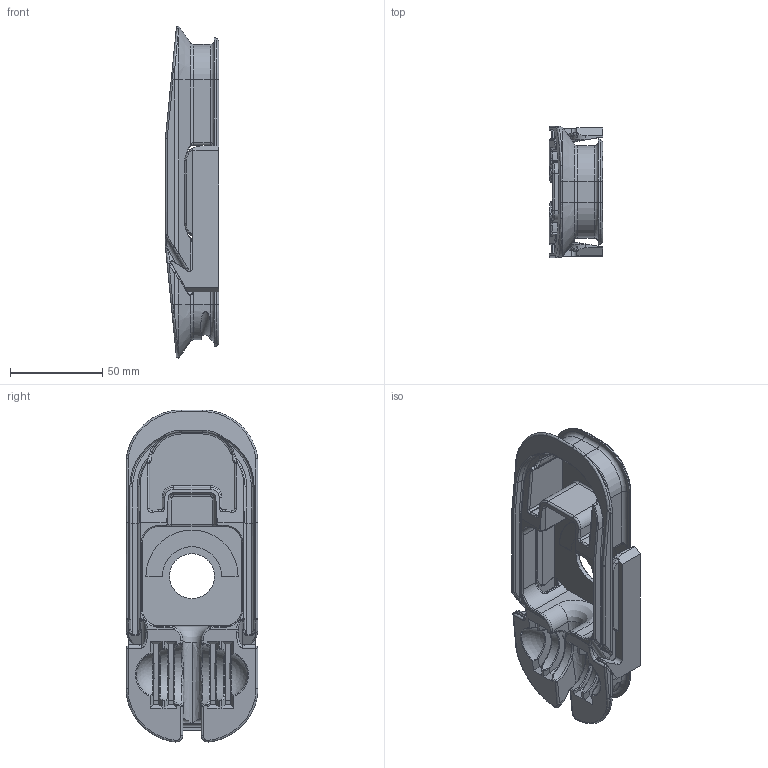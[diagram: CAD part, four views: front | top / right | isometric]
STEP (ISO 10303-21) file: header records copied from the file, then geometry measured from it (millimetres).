
FILE_DESCRIPTION (( 'STEP AP214' ), '1' );
FILE_NAME ('Steam Deck Carrying Case Insert.STEP', '2022-05-18T20:22:05', ( '' ), ( '' ), 'SwSTEP 2.0', 'SolidWorks 2021', '' );
FILE_SCHEMA (( 'AUTOMOTIVE_DESIGN' ));
Length unit declared in the file: millimetre
Products named in the file (1): Steam Deck Carrying Case Insert
Bounding box: 29 x 71.5 x 180.41 mm (x, y, z)
Volume: 112681.2 mm3; surface area: 56413.8 mm2
Topology: 3 solids, 3 shells, 626 faces, 1580 edges, 941 vertices
Faces by surface type: plane 214, cylinder 170, bspline 161, torus 47, cone 26, sphere 8
Entity records: 24683 total; most frequent: CARTESIAN_POINT 11408, ORIENTED_EDGE 3124, DIRECTION 2340, EDGE_CURVE 1562, VERTEX_POINT 941, AXIS2_PLACEMENT_3D 833, LINE 674, VECTOR 674
